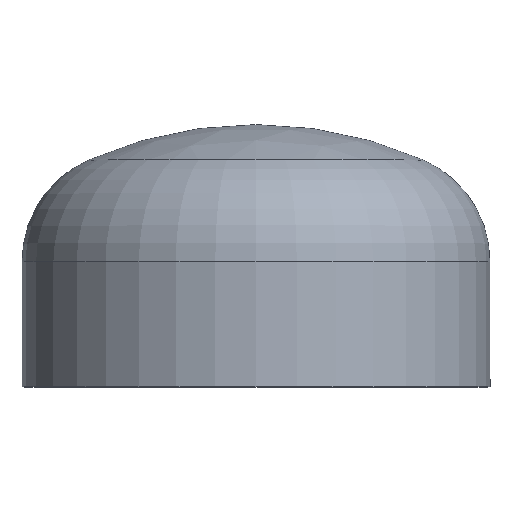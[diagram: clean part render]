
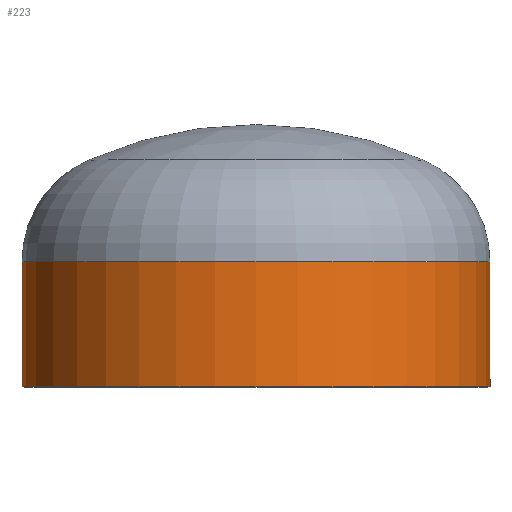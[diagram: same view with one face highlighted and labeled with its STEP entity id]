
A CAD part, top view. The second image highlights one B-rep face of the part: STEP entity #223.
In plain terms, the highlighted cylindrical face has radius 84.15 mm (diameter 168.3 mm), a partial arc.
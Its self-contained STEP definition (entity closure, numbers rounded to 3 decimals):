
#8 = CARTESIAN_POINT ( 'NONE',  ( -84.15, 0., 0. ) ) ;
#13 = CYLINDRICAL_SURFACE ( 'NONE', #59, 84.15 ) ;
#15 = ORIENTED_EDGE ( 'NONE', *, *, #367, .T. ) ;
#17 = DIRECTION ( 'NONE',  ( 1., 0., 0. ) ) ;
#21 = VERTEX_POINT ( 'NONE', #159 ) ;
#27 = AXIS2_PLACEMENT_3D ( 'NONE', #398, #266, #17 ) ;
#31 = FACE_OUTER_BOUND ( 'NONE', #97, .T. ) ;
#35 = ORIENTED_EDGE ( 'NONE', *, *, #364, .T. ) ;
#46 = VERTEX_POINT ( 'NONE', #8 ) ;
#50 = CARTESIAN_POINT ( 'NONE',  ( 0., 0., 0. ) ) ;
#55 = AXIS2_PLACEMENT_3D ( 'NONE', #312, #108, #335 ) ;
#58 = CARTESIAN_POINT ( 'NONE',  ( -84.15, 0., 0. ) ) ;
#59 = AXIS2_PLACEMENT_3D ( 'NONE', #50, #373, #307 ) ;
#62 = DIRECTION ( 'NONE',  ( 0., -1., 0. ) ) ;
#97 = EDGE_LOOP ( 'NONE', ( #35, #15, #143, #217 ) ) ;
#103 = CARTESIAN_POINT ( 'NONE',  ( 84.15, 0., 0. ) ) ;
#107 = DIRECTION ( 'NONE',  ( 0., -1., 0. ) ) ;
#108 = DIRECTION ( 'NONE',  ( 0., -1., 0. ) ) ;
#125 = VERTEX_POINT ( 'NONE', #169 ) ;
#143 = ORIENTED_EDGE ( 'NONE', *, *, #362, .F. ) ;
#159 = CARTESIAN_POINT ( 'NONE',  ( 84.15, 45., 0. ) ) ;
#169 = CARTESIAN_POINT ( 'NONE',  ( -84.15, 45., 0. ) ) ;
#210 = CIRCLE ( 'NONE', #27, 84.15 ) ;
#217 = ORIENTED_EDGE ( 'NONE', *, *, #377, .F. ) ;
#223 = ADVANCED_FACE ( 'NONE', ( #31 ), #13, .T. ) ;
#239 = CARTESIAN_POINT ( 'NONE',  ( 84.15, 0., 0. ) ) ;
#266 = DIRECTION ( 'NONE',  ( 0., -1., 0. ) ) ;
#276 = VECTOR ( 'NONE', #62, 1000. ) ;
#289 = CIRCLE ( 'NONE', #55, 84.15 ) ;
#293 = VERTEX_POINT ( 'NONE', #103 ) ;
#307 = DIRECTION ( 'NONE',  ( 1., 0., 0. ) ) ;
#312 = CARTESIAN_POINT ( 'NONE',  ( 0., 45., 0. ) ) ;
#335 = DIRECTION ( 'NONE',  ( 1., 0., 0. ) ) ;
#341 = VECTOR ( 'NONE', #107, 1000. ) ;
#345 = LINE ( 'NONE', #58, #341 ) ;
#362 = EDGE_CURVE ( 'NONE', #293, #46, #210, .T. ) ;
#364 = EDGE_CURVE ( 'NONE', #21, #125, #289, .T. ) ;
#367 = EDGE_CURVE ( 'NONE', #125, #46, #345, .T. ) ;
#373 = DIRECTION ( 'NONE',  ( 0., -1., 0. ) ) ;
#377 = EDGE_CURVE ( 'NONE', #21, #293, #389, .T. ) ;
#389 = LINE ( 'NONE', #239, #276 ) ;
#398 = CARTESIAN_POINT ( 'NONE',  ( 0., 0., 0. ) ) ;
